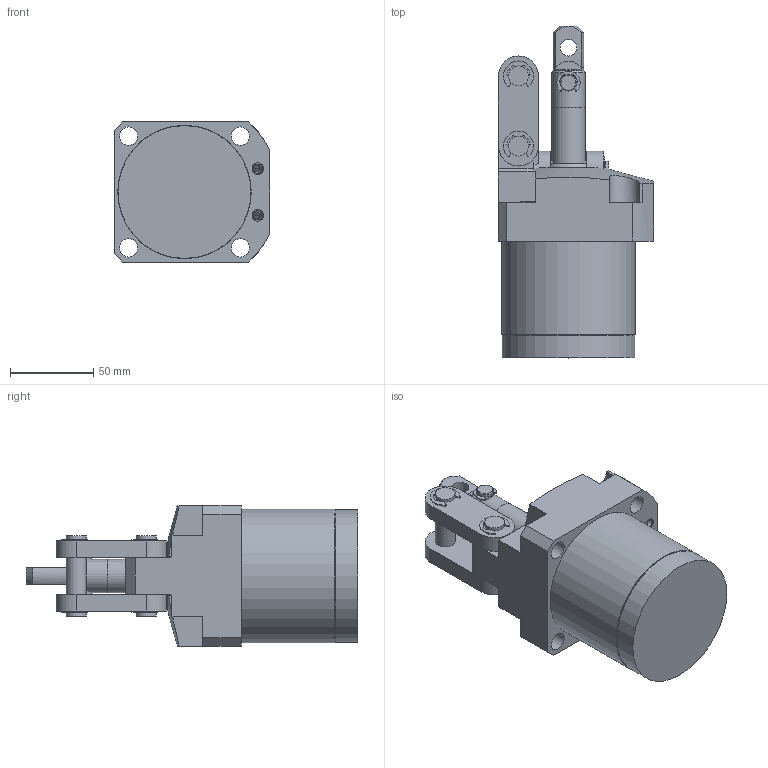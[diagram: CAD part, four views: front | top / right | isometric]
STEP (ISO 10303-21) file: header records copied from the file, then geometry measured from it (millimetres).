
FILE_DESCRIPTION( ( '' ), '1' );
FILE_NAME( 'W:/Catalogue/JL5H/JL5H52-34G/JL5H52-34G.stp', '2008-05-26T02:07:37', ( '機械事業部産業機器グループ' ), ( '豊和工業株式会社' ), 'XStep 1.0', ' ', ' ' );
FILE_SCHEMA( ( 'CONFIG_CONTROL_DESIGN' ) );
Length unit declared in the file: millimetre
Products named in the file (6): Assem1; 1; 2; 3; 4; 5
Bounding box: 93 x 199 x 84 mm (x, y, z)
Volume: 1237857 mm3; surface area: 196140.7 mm2
Topology: 11 solids, 15 shells, 582 faces, 1505 edges, 989 vertices
Faces by surface type: plane 320, cylinder 222, cone 38, torus 2
Full cylindrical faces by diameter (mm): 2 x2, 4 x4, 5.5 x4, 6.8 x2, 7 x8, 9 x10, 10 x8, 11 x12, 12 x14, 18.5 x2, 20 x4, 22 x2, 27 x2, 32 x4, 52 x4, 79 x2, 79.7 x2, 80 x2
Entity records: 8769 total; most frequent: CARTESIAN_POINT 1722, DIRECTION 1489, ORIENTED_EDGE 1282, EDGE_CURVE 641, AXIS2_PLACEMENT_3D 583, VERTEX_POINT 454, EDGE_LOOP 389, FACE_OUTER_BOUND 328
